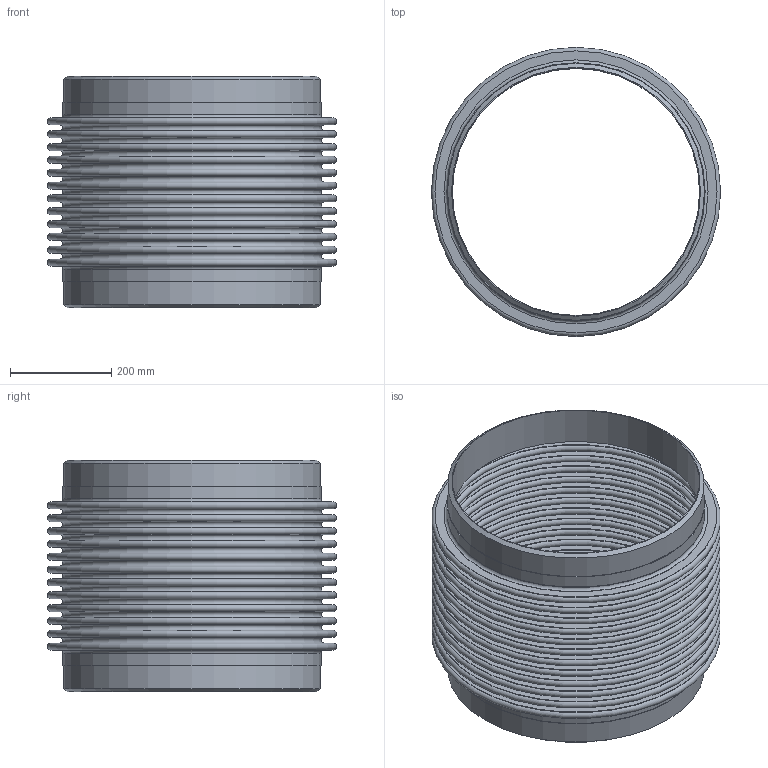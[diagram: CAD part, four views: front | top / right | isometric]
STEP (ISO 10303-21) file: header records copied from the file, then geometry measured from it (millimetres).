
FILE_DESCRIPTION(/* description */ ('EXPANSION JOINT,SINGLE, WELD ENDS,4 INCH NOMINAL'),/* implementation_level */ '2;1');
FILE_NAME(/* name */ 'ASSEMBLY US-20-12-85L.stp',/* time_stamp */ '2026-07-30T08:05:06-05:00',/* author */ ('jorgef'),/* organization */ (''),/* preprocessor_version */ 'ST-DEVELOPER v20.1',/* originating_system */ 'Autodesk Inventor 2026',/* authorisation */ '');
FILE_SCHEMA (('AUTOMOTIVE_DESIGN { 1 0 10303 214 3 1 1 }'));
Length unit declared in the file: inch
Products named in the file (3): ASSEMBLY  US-20-12-85L; STOCK BELLOW - US-20-12-85L; PIPE- US-20-12-85L
Assembly tree (3 placements, depth 2):
  ASSEMBLY  US-20-12-85L
    STOCK BELLOW - US-20-12-85L
    PIPE- US-20-12-85L  x2
Bounding box: 571.5 x 571.5 x 457.2 mm (x, y, z)
Volume: 4170478.2 mm3; surface area: 3773274 mm2
Topology: 5 solids, 5 shells, 118 faces, 180 edges, 121 vertices
Faces by surface type: plane 58, torus 50, cylinder 8, cone 2
Full cylindrical faces by diameter (mm): 488.95 x2, 508 x4, 510.438 x2
Entity records: 2769 total; most frequent: DIRECTION 573, CARTESIAN_POINT 405, ORIENTED_EDGE 342, AXIS2_PLACEMENT_3D 283, EDGE_CURVE 171, EDGE_LOOP 169, CIRCLE 164, VERTEX_POINT 114
